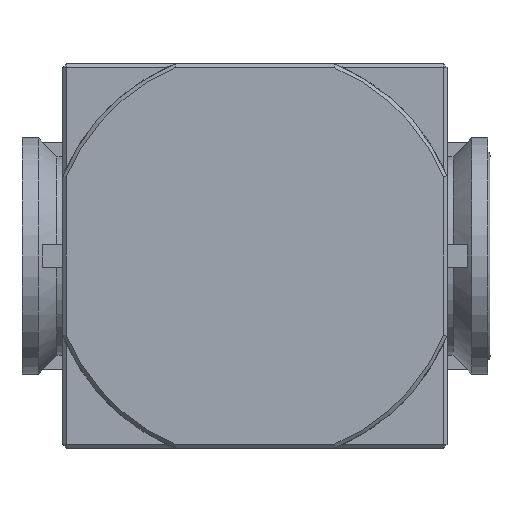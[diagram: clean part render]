
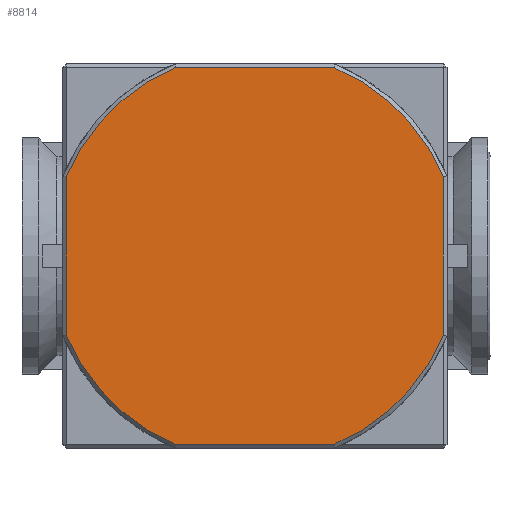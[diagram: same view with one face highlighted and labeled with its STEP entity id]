
A CAD part, front view. The second image highlights one B-rep face of the part: STEP entity #8814.
In plain terms, the highlighted planar face has unit normal (0, -1, 0).
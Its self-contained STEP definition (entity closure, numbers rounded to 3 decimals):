
#3301 = CIRCLE ( 'NONE', #3364, 27.65 ) ;
#3302 = CARTESIAN_POINT ( 'NONE',  ( -25.5, -37.5, -10.69 ) ) ;
#3303 = DIRECTION ( 'NONE',  ( 0., 0., -1. ) ) ;
#3304 = VECTOR ( 'NONE', #3303, 1000. ) ;
#3305 = CARTESIAN_POINT ( 'NONE',  ( -25.5, -37.5, -10.79 ) ) ;
#3306 = LINE ( 'NONE', #3305, #3304 ) ;
#3307 = CARTESIAN_POINT ( 'NONE',  ( -25.5, -37.5, 10.69 ) ) ;
#3308 = DIRECTION ( 'NONE',  ( 0., 0., -1. ) ) ;
#3309 = DIRECTION ( 'NONE',  ( 0., -1., 0. ) ) ;
#3310 = CARTESIAN_POINT ( 'NONE',  ( 0., -37.5, 0. ) ) ;
#3311 = AXIS2_PLACEMENT_3D ( 'NONE', #3310, #3309, #3308 ) ;
#3312 = CIRCLE ( 'NONE', #3311, 27.65 ) ;
#3313 = CARTESIAN_POINT ( 'NONE',  ( -10.69, -37.5, 25.5 ) ) ;
#3314 = DIRECTION ( 'NONE',  ( -1., 0., 0. ) ) ;
#3315 = VECTOR ( 'NONE', #3314, 1000. ) ;
#3316 = CARTESIAN_POINT ( 'NONE',  ( -26., -37.5, 25.5 ) ) ;
#3317 = LINE ( 'NONE', #3316, #3315 ) ;
#3356 = DIRECTION ( 'NONE',  ( 1., 0., 0. ) ) ;
#3357 = VECTOR ( 'NONE', #3356, 1000. ) ;
#3358 = CARTESIAN_POINT ( 'NONE',  ( -26., -37.5, -25.5 ) ) ;
#3359 = LINE ( 'NONE', #3358, #3357 ) ;
#3360 = CARTESIAN_POINT ( 'NONE',  ( -10.69, -37.5, -25.5 ) ) ;
#3361 = DIRECTION ( 'NONE',  ( 0., 0., -1. ) ) ;
#3362 = DIRECTION ( 'NONE',  ( 0., -1., 0. ) ) ;
#3363 = CARTESIAN_POINT ( 'NONE',  ( 0., -37.5, 0. ) ) ;
#3364 = AXIS2_PLACEMENT_3D ( 'NONE', #3363, #3362, #3361 ) ;
#3409 = DIRECTION ( 'NONE',  ( 0., 0., -1. ) ) ;
#3410 = DIRECTION ( 'NONE',  ( 0., -1., 0. ) ) ;
#3411 = AXIS2_PLACEMENT_3D ( 'NONE', #3417, #3410, #3409 ) ;
#3412 = CIRCLE ( 'NONE', #3411, 27.65 ) ;
#3413 = CARTESIAN_POINT ( 'NONE',  ( 10.69, -37.5, -25.5 ) ) ;
#3414 = DIRECTION ( 'NONE',  ( 0., 0., -1. ) ) ;
#3415 = DIRECTION ( 'NONE',  ( 0., -1., 0. ) ) ;
#3416 = CARTESIAN_POINT ( 'NONE',  ( -26., -37.5, 26. ) ) ;
#3417 = CARTESIAN_POINT ( 'NONE',  ( 0., -37.5, 0. ) ) ;
#3418 = AXIS2_PLACEMENT_3D ( 'NONE', #3416, #3415, #3414 ) ;
#3419 = PLANE ( 'NONE',  #3418 ) ;
#3420 = FACE_OUTER_BOUND ( 'NONE', #8815, .T. ) ;
#3462 = CARTESIAN_POINT ( 'NONE',  ( 10.69, -37.5, 25.5 ) ) ;
#3463 = DIRECTION ( 'NONE',  ( 0., 0., -1. ) ) ;
#3464 = DIRECTION ( 'NONE',  ( 0., -1., 0. ) ) ;
#3465 = CARTESIAN_POINT ( 'NONE',  ( 0., -37.5, 0. ) ) ;
#3466 = AXIS2_PLACEMENT_3D ( 'NONE', #3465, #3464, #3463 ) ;
#3467 = CIRCLE ( 'NONE', #3466, 27.65 ) ;
#3468 = CARTESIAN_POINT ( 'NONE',  ( 25.5, -37.5, 10.69 ) ) ;
#3469 = DIRECTION ( 'NONE',  ( 0., 0., 1. ) ) ;
#3470 = VECTOR ( 'NONE', #3469, 1000. ) ;
#3471 = CARTESIAN_POINT ( 'NONE',  ( 25.5, -37.5, 10.79 ) ) ;
#3472 = LINE ( 'NONE', #3471, #3470 ) ;
#3473 = CARTESIAN_POINT ( 'NONE',  ( 25.5, -37.5, -10.69 ) ) ;
#8757 = EDGE_CURVE ( 'NONE', #8825, #8758, #3317, .T. ) ;
#8758 = VERTEX_POINT ( 'NONE', #3313 ) ;
#8759 = ORIENTED_EDGE ( 'NONE', *, *, #8760, .T. ) ;
#8760 = EDGE_CURVE ( 'NONE', #8758, #8761, #3312, .T. ) ;
#8761 = VERTEX_POINT ( 'NONE', #3307 ) ;
#8762 = ORIENTED_EDGE ( 'NONE', *, *, #8763, .T. ) ;
#8763 = EDGE_CURVE ( 'NONE', #8761, #8764, #3306, .T. ) ;
#8764 = VERTEX_POINT ( 'NONE', #3302 ) ;
#8765 = ORIENTED_EDGE ( 'NONE', *, *, #8766, .T. ) ;
#8766 = EDGE_CURVE ( 'NONE', #8764, #8767, #3301, .T. ) ;
#8767 = VERTEX_POINT ( 'NONE', #3360 ) ;
#8768 = ORIENTED_EDGE ( 'NONE', *, *, #8769, .T. ) ;
#8769 = EDGE_CURVE ( 'NONE', #8767, #8818, #3359, .T. ) ;
#8814 = ADVANCED_FACE ( 'NONE', ( #3420 ), #3419, .T. ) ;
#8815 = EDGE_LOOP ( 'NONE', ( #8816, #8820, #8823, #8826, #8759, #8762, #8765, #8768 ) ) ;
#8816 = ORIENTED_EDGE ( 'NONE', *, *, #8817, .T. ) ;
#8817 = EDGE_CURVE ( 'NONE', #8818, #8819, #3412, .T. ) ;
#8818 = VERTEX_POINT ( 'NONE', #3413 ) ;
#8819 = VERTEX_POINT ( 'NONE', #3473 ) ;
#8820 = ORIENTED_EDGE ( 'NONE', *, *, #8821, .T. ) ;
#8821 = EDGE_CURVE ( 'NONE', #8819, #8822, #3472, .T. ) ;
#8822 = VERTEX_POINT ( 'NONE', #3468 ) ;
#8823 = ORIENTED_EDGE ( 'NONE', *, *, #8824, .T. ) ;
#8824 = EDGE_CURVE ( 'NONE', #8822, #8825, #3467, .T. ) ;
#8825 = VERTEX_POINT ( 'NONE', #3462 ) ;
#8826 = ORIENTED_EDGE ( 'NONE', *, *, #8757, .T. ) ;
